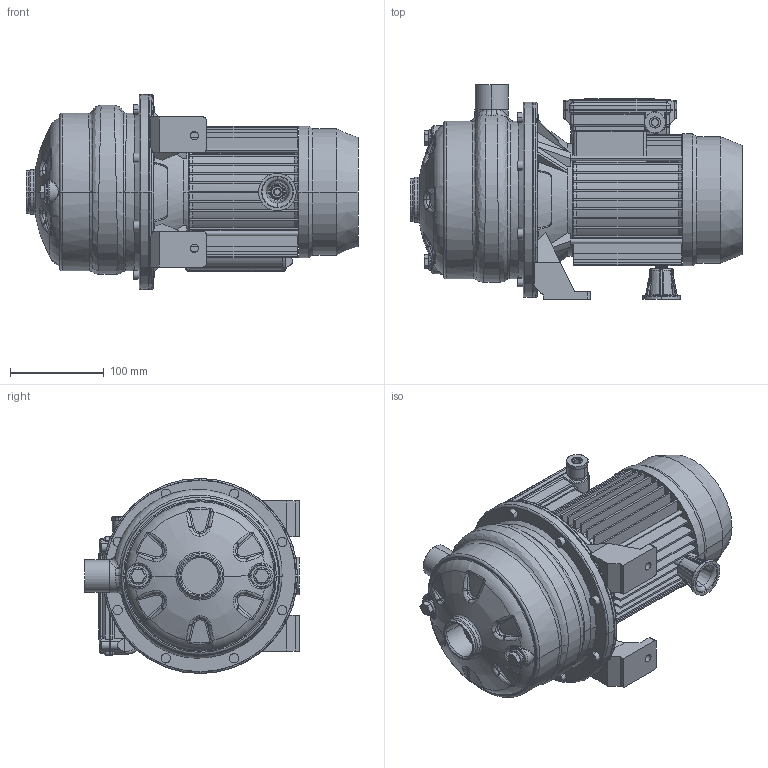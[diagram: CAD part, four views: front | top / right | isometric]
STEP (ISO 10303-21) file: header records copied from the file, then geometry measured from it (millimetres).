
FILE_DESCRIPTION((''),'2;1');
FILE_NAME('2CDXM_70_12_ASM','2013-02-06T',('Rosa'),('"Ebara Pumps Europe +39.444.706811"'),'PRO/ENGINEER BY PARAMETRIC TECHNOLOGY CORPORATION, 2009360','PRO/ENGINEER BY PARAMETRIC TECHNOLOGY CORPORATION, 2009360','');
FILE_SCHEMA(('AUTOMOTIVE_DESIGN { 1 0 10303 214 1 1 1 1 }'));
Length unit declared in the file: millimetre
Products named in the file (6): 80545; 251420688; MEC_71_PACCO_90_MONOFASE; COPRIMORS_MEC63-71_MONOFASE_M4; 72012; 2CDXM_70_12_ASM
Assembly tree (5 placements, depth 2):
  2CDXM_70_12_ASM
    80545
    251420688
    MEC_71_PACCO_90_MONOFASE
    COPRIMORS_MEC63-71_MONOFASE_M4
    72012
Bounding box: 354 x 229 x 208 mm (x, y, z)
Volume: 4303420.3 mm3; surface area: 583679.1 mm2
Topology: 5 solids, 7 shells, 1235 faces, 2954 edges, 1783 vertices
Faces by surface type: plane 487, cylinder 289, bspline 227, cone 142, torus 80, sphere 10
Entity records: 60142 total; most frequent: CARTESIAN_POINT 22326, ORIENTED_EDGE 5908, DIRECTION 5371, PRESENTATION_STYLE_ASSIGNMENT 2959, STYLED_ITEM 2959, CURVE_STYLE 2954, EDGE_CURVE 2954, AXIS2_PLACEMENT_3D 2108
